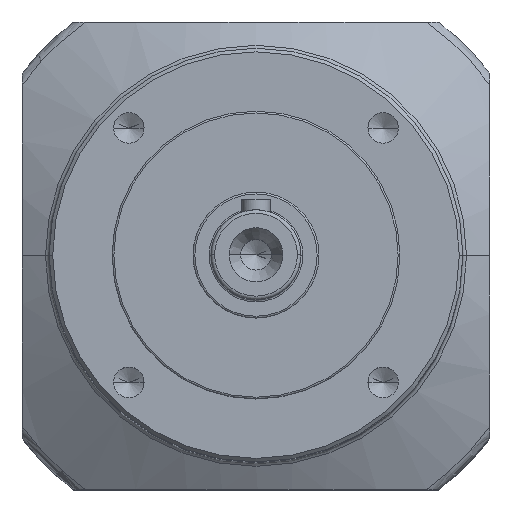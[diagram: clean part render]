
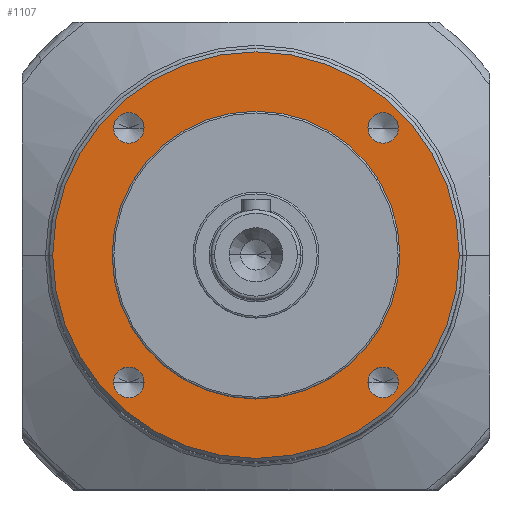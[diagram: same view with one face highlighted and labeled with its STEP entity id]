
A CAD part, top view. The second image highlights one B-rep face of the part: STEP entity #1107.
In plain terms, the highlighted planar face has unit normal (0, 0, 1).
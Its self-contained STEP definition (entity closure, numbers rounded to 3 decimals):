
#1 = DIRECTION ( 'NONE',  ( 0., 0., 1. ) ) ;
#24 = DIRECTION ( 'NONE',  ( 1., 0., 0. ) ) ;
#57 = DIRECTION ( 'NONE',  ( 1., 0., 0. ) ) ;
#67 = DIRECTION ( 'NONE',  ( 0., 0., 1. ) ) ;
#76 = CARTESIAN_POINT ( 'NONE',  ( 35.355, 35.355, 0. ) ) ;
#239 = VERTEX_POINT ( 'NONE', #4690 ) ;
#281 = EDGE_CURVE ( 'NONE', #239, #2184, #4557, .T. ) ;
#317 = VERTEX_POINT ( 'NONE', #1083 ) ;
#383 = ORIENTED_EDGE ( 'NONE', *, *, #3398, .F. ) ;
#457 = ORIENTED_EDGE ( 'NONE', *, *, #1938, .F. ) ;
#543 = EDGE_LOOP ( 'NONE', ( #856, #826 ) ) ;
#553 = VERTEX_POINT ( 'NONE', #3200 ) ;
#563 = CARTESIAN_POINT ( 'NONE',  ( 0., 0., 0. ) ) ;
#615 = DIRECTION ( 'NONE',  ( 1., 0., 0. ) ) ;
#625 = DIRECTION ( 'NONE',  ( 0., 0., 1. ) ) ;
#655 = AXIS2_PLACEMENT_3D ( 'NONE', #889, #625, #615 ) ;
#657 = AXIS2_PLACEMENT_3D ( 'NONE', #1534, #1, #24 ) ;
#672 = DIRECTION ( 'NONE',  ( 0., 0., 1. ) ) ;
#705 = PLANE ( 'NONE',  #655 ) ;
#744 = DIRECTION ( 'NONE',  ( 0., 0., 1. ) ) ;
#802 = CIRCLE ( 'NONE', #4873, 56.5 ) ;
#826 = ORIENTED_EDGE ( 'NONE', *, *, #5332, .F. ) ;
#856 = ORIENTED_EDGE ( 'NONE', *, *, #1196, .F. ) ;
#871 = CIRCLE ( 'NONE', #5668, 4.25 ) ;
#889 = CARTESIAN_POINT ( 'NONE',  ( 0., 0., 0. ) ) ;
#936 = CARTESIAN_POINT ( 'NONE',  ( 56.5, 0., 0. ) ) ;
#1023 = DIRECTION ( 'NONE',  ( 0., 0., 1. ) ) ;
#1083 = CARTESIAN_POINT ( 'NONE',  ( 40., 0., 0. ) ) ;
#1107 = ADVANCED_FACE ( 'NONE', ( #4856, #3751, #6070, #3616, #2372, #1126 ), #705, .T. ) ;
#1126 = FACE_BOUND ( 'NONE', #2077, .T. ) ;
#1156 = CARTESIAN_POINT ( 'NONE',  ( 0., 0., 0. ) ) ;
#1196 = EDGE_CURVE ( 'NONE', #3996, #1729, #2224, .T. ) ;
#1236 = DIRECTION ( 'NONE',  ( 1., 0., 0. ) ) ;
#1280 = VERTEX_POINT ( 'NONE', #4593 ) ;
#1287 = VERTEX_POINT ( 'NONE', #5343 ) ;
#1433 = ORIENTED_EDGE ( 'NONE', *, *, #2546, .F. ) ;
#1484 = DIRECTION ( 'NONE',  ( 0., 0., 1. ) ) ;
#1527 = CARTESIAN_POINT ( 'NONE',  ( 35.355, -35.355, 0. ) ) ;
#1534 = CARTESIAN_POINT ( 'NONE',  ( 0., 0., 0. ) ) ;
#1548 = DIRECTION ( 'NONE',  ( 0., 0., 1. ) ) ;
#1564 = DIRECTION ( 'NONE',  ( 1., 0., 0. ) ) ;
#1602 = AXIS2_PLACEMENT_3D ( 'NONE', #76, #67, #57 ) ;
#1623 = DIRECTION ( 'NONE',  ( 1., 0., 0. ) ) ;
#1658 = ORIENTED_EDGE ( 'NONE', *, *, #281, .F. ) ;
#1728 = AXIS2_PLACEMENT_3D ( 'NONE', #3820, #1023, #4282 ) ;
#1729 = VERTEX_POINT ( 'NONE', #3099 ) ;
#1938 = EDGE_CURVE ( 'NONE', #2184, #239, #5417, .T. ) ;
#2062 = AXIS2_PLACEMENT_3D ( 'NONE', #5608, #5671, #5661 ) ;
#2077 = EDGE_LOOP ( 'NONE', ( #1433, #3907 ) ) ;
#2102 = EDGE_CURVE ( 'NONE', #4493, #5375, #2140, .T. ) ;
#2140 = CIRCLE ( 'NONE', #4123, 56.5 ) ;
#2184 = VERTEX_POINT ( 'NONE', #2974 ) ;
#2224 = CIRCLE ( 'NONE', #1602, 4.25 ) ;
#2239 = EDGE_LOOP ( 'NONE', ( #4859, #383 ) ) ;
#2260 = AXIS2_PLACEMENT_3D ( 'NONE', #3562, #744, #4010 ) ;
#2372 = FACE_OUTER_BOUND ( 'NONE', #4643, .T. ) ;
#2373 = ORIENTED_EDGE ( 'NONE', *, *, #4586, .F. ) ;
#2389 = VERTEX_POINT ( 'NONE', #3805 ) ;
#2405 = AXIS2_PLACEMENT_3D ( 'NONE', #4269, #1484, #4752 ) ;
#2423 = CARTESIAN_POINT ( 'NONE',  ( 0., 0., 0. ) ) ;
#2485 = CARTESIAN_POINT ( 'NONE',  ( -35.355, 35.355, 0. ) ) ;
#2546 = EDGE_CURVE ( 'NONE', #2389, #317, #4838, .T. ) ;
#2648 = CIRCLE ( 'NONE', #1728, 4.25 ) ;
#2777 = EDGE_CURVE ( 'NONE', #1287, #1280, #4302, .T. ) ;
#2824 = DIRECTION ( 'NONE',  ( 0., 0., 1. ) ) ;
#2899 = ORIENTED_EDGE ( 'NONE', *, *, #2102, .T. ) ;
#2901 = DIRECTION ( 'NONE',  ( 1., 0., 0. ) ) ;
#2908 = ORIENTED_EDGE ( 'NONE', *, *, #3594, .T. ) ;
#2937 = CIRCLE ( 'NONE', #2260, 4.25 ) ;
#2945 = DIRECTION ( 'NONE',  ( 1., 0., 0. ) ) ;
#2974 = CARTESIAN_POINT ( 'NONE',  ( 39.605, -35.355, 0. ) ) ;
#2992 = CARTESIAN_POINT ( 'NONE',  ( 39.605, 35.355, 0. ) ) ;
#3064 = AXIS2_PLACEMENT_3D ( 'NONE', #5824, #2824, #4848 ) ;
#3099 = CARTESIAN_POINT ( 'NONE',  ( 31.105, 35.355, 0. ) ) ;
#3200 = CARTESIAN_POINT ( 'NONE',  ( -31.105, 35.355, 0. ) ) ;
#3398 = EDGE_CURVE ( 'NONE', #1280, #1287, #2648, .T. ) ;
#3460 = CIRCLE ( 'NONE', #5677, 40. ) ;
#3561 = EDGE_LOOP ( 'NONE', ( #4267, #2373 ) ) ;
#3562 = CARTESIAN_POINT ( 'NONE',  ( 35.355, 35.355, 0. ) ) ;
#3594 = EDGE_CURVE ( 'NONE', #5375, #4493, #802, .T. ) ;
#3616 = FACE_BOUND ( 'NONE', #543, .T. ) ;
#3751 = FACE_BOUND ( 'NONE', #2239, .T. ) ;
#3805 = CARTESIAN_POINT ( 'NONE',  ( -40., 0., 0. ) ) ;
#3820 = CARTESIAN_POINT ( 'NONE',  ( -35.355, -35.355, 0. ) ) ;
#3828 = EDGE_LOOP ( 'NONE', ( #457, #1658 ) ) ;
#3895 = EDGE_CURVE ( 'NONE', #553, #5004, #871, .T. ) ;
#3907 = ORIENTED_EDGE ( 'NONE', *, *, #5602, .F. ) ;
#3929 = CIRCLE ( 'NONE', #2405, 4.25 ) ;
#3992 = CARTESIAN_POINT ( 'NONE',  ( -56.5, 0., 0. ) ) ;
#3996 = VERTEX_POINT ( 'NONE', #2992 ) ;
#4010 = DIRECTION ( 'NONE',  ( 1., 0., 0. ) ) ;
#4123 = AXIS2_PLACEMENT_3D ( 'NONE', #563, #672, #1236 ) ;
#4267 = ORIENTED_EDGE ( 'NONE', *, *, #3895, .F. ) ;
#4269 = CARTESIAN_POINT ( 'NONE',  ( -35.355, 35.355, 0. ) ) ;
#4282 = DIRECTION ( 'NONE',  ( 1., 0., 0. ) ) ;
#4302 = CIRCLE ( 'NONE', #3064, 4.25 ) ;
#4416 = DIRECTION ( 'NONE',  ( 0., 0., 1. ) ) ;
#4493 = VERTEX_POINT ( 'NONE', #936 ) ;
#4557 = CIRCLE ( 'NONE', #2062, 4.25 ) ;
#4586 = EDGE_CURVE ( 'NONE', #5004, #553, #3929, .T. ) ;
#4593 = CARTESIAN_POINT ( 'NONE',  ( -39.605, -35.355, 0. ) ) ;
#4643 = EDGE_LOOP ( 'NONE', ( #2908, #2899 ) ) ;
#4661 = CARTESIAN_POINT ( 'NONE',  ( -39.605, 35.355, 0. ) ) ;
#4690 = CARTESIAN_POINT ( 'NONE',  ( 31.105, -35.355, 0. ) ) ;
#4752 = DIRECTION ( 'NONE',  ( 1., 0., 0. ) ) ;
#4838 = CIRCLE ( 'NONE', #657, 40. ) ;
#4848 = DIRECTION ( 'NONE',  ( 1., 0., 0. ) ) ;
#4856 = FACE_BOUND ( 'NONE', #3828, .T. ) ;
#4859 = ORIENTED_EDGE ( 'NONE', *, *, #2777, .F. ) ;
#4873 = AXIS2_PLACEMENT_3D ( 'NONE', #1156, #4416, #1623 ) ;
#4896 = AXIS2_PLACEMENT_3D ( 'NONE', #1527, #1548, #1564 ) ;
#5004 = VERTEX_POINT ( 'NONE', #4661 ) ;
#5332 = EDGE_CURVE ( 'NONE', #1729, #3996, #2937, .T. ) ;
#5343 = CARTESIAN_POINT ( 'NONE',  ( -31.105, -35.355, 0. ) ) ;
#5375 = VERTEX_POINT ( 'NONE', #3992 ) ;
#5417 = CIRCLE ( 'NONE', #4896, 4.25 ) ;
#5602 = EDGE_CURVE ( 'NONE', #317, #2389, #3460, .T. ) ;
#5608 = CARTESIAN_POINT ( 'NONE',  ( 35.355, -35.355, 0. ) ) ;
#5661 = DIRECTION ( 'NONE',  ( 1., 0., 0. ) ) ;
#5668 = AXIS2_PLACEMENT_3D ( 'NONE', #2485, #5732, #2945 ) ;
#5671 = DIRECTION ( 'NONE',  ( 0., 0., 1. ) ) ;
#5675 = DIRECTION ( 'NONE',  ( 0., 0., 1. ) ) ;
#5677 = AXIS2_PLACEMENT_3D ( 'NONE', #2423, #5675, #2901 ) ;
#5732 = DIRECTION ( 'NONE',  ( 0., 0., 1. ) ) ;
#5824 = CARTESIAN_POINT ( 'NONE',  ( -35.355, -35.355, 0. ) ) ;
#6070 = FACE_BOUND ( 'NONE', #3561, .T. ) ;
